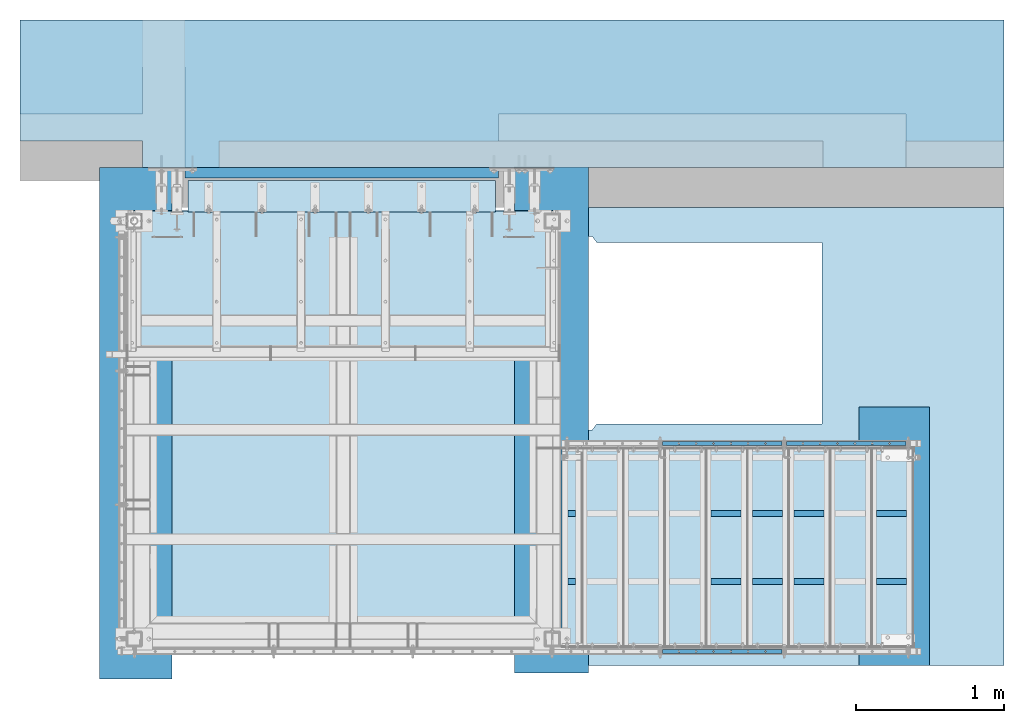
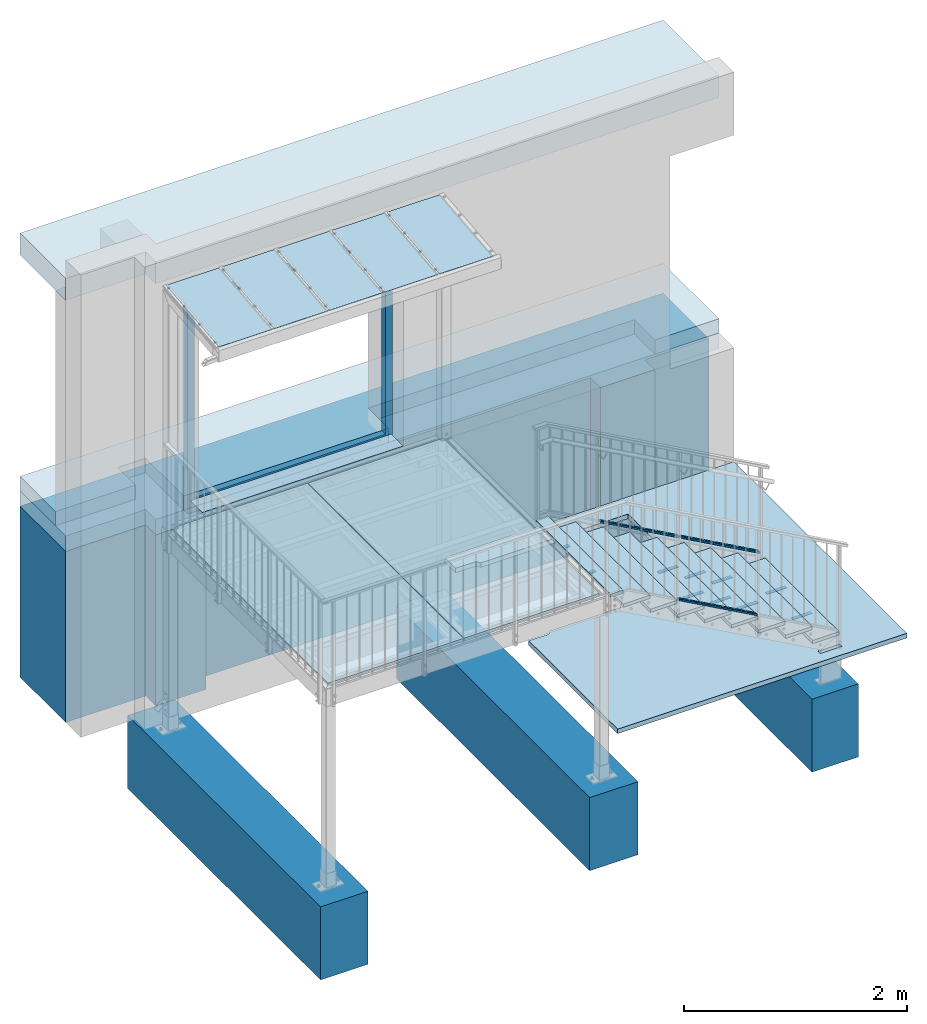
# One storey, part 22 of 116: 17 plates, 10 beams, 9 slabs, 3 members, 30 openings.
"""IFC2X3 building model written with IfcOpenShell, lengths in millimetres."""

from ifc_helpers import new_model, entity, si_unit, converted_unit, frame, frame_2d, origin, origin_with_axes, origin_2d, place, context, project, spatial, polyline, circle_curve, rectangle, hollow_rectangle, outline, extrude, clip, halfspace, material, layer, layer_set, element, save


model = new_model("IFC2X3")

# Units and contexts
model_context = context("Model", 3, precision=1e-09, world=origin_with_axes())
ifc_project = project(units=[si_unit("LENGTHUNIT", "METRE", prefix="MILLI"), si_unit("AREAUNIT", "SQUARE_METRE"), si_unit("VOLUMEUNIT", "CUBIC_METRE"), converted_unit("PLANEANGLEUNIT", "DEGREE", entity("IfcPlaneAngleMeasure", 0.01745329), si_unit("PLANEANGLEUNIT", "RADIAN"), dimensions=[0, 0, 0, 0, 0, 0, 0])], contexts=[model_context])

# Site, building, storey
site_placement = place(None, origin_with_axes())
site = spatial("IfcSite", under=ifc_project, at=site_placement, Name="Site", CompositionType="ELEMENT")
building_placement = place(site_placement, origin_with_axes())
building = spatial("IfcBuilding", under=site, at=building_placement, Name="Struktur 1", CompositionType="ELEMENT")
storey_placement = place(building_placement, origin_with_axes())
storey = spatial("IfcBuildingStorey", under=building, at=storey_placement, Name="Default Storey", CompositionType="ELEMENT", Elevation=0.0)

# Member, openings
ifc_material_1 = material(Name="S235JR")
member_1_placement = place(None, frame((59740.076890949, 9047.359883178, -731.01111299), z_axis=(0.874893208, 0.0, -0.484315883), x_axis=(0.484315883, 0.0, 0.874893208)))
member_1 = element("IfcMember", 1, at=member_1_placement, inside=storey, material=ifc_material_1, Name="-", ObjectType="-", context=model_context, shape_type="Clipping", body=[
    clip(clip(extrude(hollow_rectangle(XDim=20.0, YDim=30.0, WallThickness=2.0, InnerFilletRadius=2.0, OuterFilletRadius=4.0, at=origin_2d()), origin(), (0.0, 0.0, -1.0), 967.0386111), halfspace(frame((630.825044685, 9047.359883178, -369.813529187), z_axis=(-0.484315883, 0.0, -0.874893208), x_axis=(0.0, 1.0, 0.0)), True)), halfspace(frame((238.530148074, 9047.359883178, -1078.475277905), z_axis=(0.484315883, 0.0, 0.874893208), x_axis=(0.0, -1.0, 0.0)), True)),
])
opening_1_placement = place(member_1_placement, frame((148.612357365, 0.0, -908.254290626), z_axis=(0.874893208, 0.0, -0.484315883), x_axis=(0.0, 1.0, 0.0)))
element("IfcOpeningElement", 2, at=opening_1_placement, cuts=member_1, ObjectType="Opening", context=model_context, shape_type="SweptSolid", body=[
    extrude(outline(circle_curve(frame_2d((0.0, 6.051), x_axis=(1.0, 0.0)), 6.051)), origin(), (0.0, 0.0, -1.0), 169.888767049),
])
opening_2_placement = place(member_1_placement, frame((262.35740189, 0.0, -702.779371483), z_axis=(0.874893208, 0.0, -0.484315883), x_axis=(0.0, 1.0, 0.0)))
element("IfcOpeningElement", 3, at=opening_2_placement, cuts=member_1, ObjectType="Opening", context=model_context, shape_type="SweptSolid", body=[
    extrude(outline(circle_curve(frame_2d((0.0, 6.051), x_axis=(1.0, 0.0)), 6.051)), origin(), (0.0, 0.0, -1.0), 299.898971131),
])
opening_3_placement = place(member_1_placement, frame((205.484879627, 0.0, -805.516831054), z_axis=(0.874893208, 0.0, -0.484315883), x_axis=(0.0, 1.0, 0.0)))
element("IfcOpeningElement", 4, at=opening_3_placement, cuts=member_1, ObjectType="Opening", context=model_context, shape_type="SweptSolid", body=[
    extrude(outline(circle_curve(frame_2d((0.0, 6.051), x_axis=(1.0, 0.0)), 6.051)), origin(), (0.0, 0.0, -1.0), 234.89386909),
])
opening_4_placement = place(member_1_placement, frame((376.102446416, 0.0, -497.30445234), z_axis=(0.874893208, 0.0, -0.484315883), x_axis=(0.0, 1.0, 0.0)))
element("IfcOpeningElement", 5, at=opening_4_placement, cuts=member_1, ObjectType="Opening", context=model_context, shape_type="SweptSolid", body=[
    extrude(outline(circle_curve(frame_2d((0.0, 6.051), x_axis=(1.0, 0.0)), 6.051)), origin(), (0.0, 0.0, -1.0), 429.909175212),
])
opening_5_placement = place(member_1_placement, frame((319.229924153, 0.0, -600.041911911), z_axis=(0.874893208, 0.0, -0.484315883), x_axis=(0.0, 1.0, 0.0)))
element("IfcOpeningElement", 6, at=opening_5_placement, cuts=member_1, ObjectType="Opening", context=model_context, shape_type="SweptSolid", body=[
    extrude(outline(circle_curve(frame_2d((0.0, 6.051), x_axis=(1.0, 0.0)), 6.051)), origin(), (0.0, 0.0, -1.0), 364.904073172),
])
opening_6_placement = place(member_1_placement, frame((432.974968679, 0.0, -394.566992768), z_axis=(0.874893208, 0.0, -0.484315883), x_axis=(0.0, 1.0, 0.0)))
element("IfcOpeningElement", 7, at=opening_6_placement, cuts=member_1, ObjectType="Opening", context=model_context, shape_type="SweptSolid", body=[
    extrude(outline(circle_curve(frame_2d((0.0, 6.051), x_axis=(1.0, 0.0)), 6.051)), origin(), (0.0, 0.0, -1.0), 494.914277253),
])

member_2_placement = place(None, frame((59740.076890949, 10455.357883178, -731.01111299), z_axis=(-0.874893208, 0.0, 0.484315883), x_axis=(0.484315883, 0.0, 0.874893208)))
member_2 = element("IfcMember", 8, at=member_2_placement, inside=storey, material=ifc_material_1, Name="-", ObjectType="-", context=model_context, shape_type="Clipping", body=[
    clip(clip(extrude(hollow_rectangle(XDim=20.0, YDim=30.0, WallThickness=2.0, InnerFilletRadius=2.0, OuterFilletRadius=4.0, at=origin_2d()), origin(), (0.0, 0.0, 1.0), 967.0386111), halfspace(frame((630.825044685, -10455.357883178, 369.813529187), z_axis=(-0.484315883, 0.0, 0.874893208), x_axis=(0.0, -1.0, 0.0)), True)), halfspace(frame((238.530148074, -10455.357883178, 1078.475277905), z_axis=(0.484315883, 0.0, -0.874893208), x_axis=(0.0, 1.0, 0.0)), True)),
])
opening_7_placement = place(member_2_placement, frame((148.612357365, 0.0, 908.254290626), z_axis=(0.874893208, 0.0, 0.484315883), x_axis=(0.0, 1.0, 0.0)))
element("IfcOpeningElement", 9, at=opening_7_placement, cuts=member_2, ObjectType="Opening", context=model_context, shape_type="SweptSolid", body=[
    extrude(outline(circle_curve(frame_2d((0.0, -6.051), x_axis=(1.0, 0.0)), 6.051)), origin(), (0.0, 0.0, -1.0), 169.888767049),
])
opening_8_placement = place(member_2_placement, frame((205.484879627, 0.0, 805.516831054), z_axis=(0.874893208, 0.0, 0.484315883), x_axis=(0.0, 1.0, 0.0)))
element("IfcOpeningElement", 10, at=opening_8_placement, cuts=member_2, ObjectType="Opening", context=model_context, shape_type="SweptSolid", body=[
    extrude(outline(circle_curve(frame_2d((0.0, -6.051), x_axis=(1.0, 0.0)), 6.051)), origin(), (0.0, 0.0, -1.0), 234.89386909),
])
opening_9_placement = place(member_2_placement, frame((262.35740189, 0.0, 702.779371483), z_axis=(0.874893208, 0.0, 0.484315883), x_axis=(0.0, 1.0, 0.0)))
element("IfcOpeningElement", 11, at=opening_9_placement, cuts=member_2, ObjectType="Opening", context=model_context, shape_type="SweptSolid", body=[
    extrude(outline(circle_curve(frame_2d((0.0, -6.051), x_axis=(1.0, 0.0)), 6.051)), origin(), (0.0, 0.0, -1.0), 299.898971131),
])
opening_10_placement = place(member_2_placement, frame((319.229924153, 0.0, 600.041911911), z_axis=(0.874893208, 0.0, 0.484315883), x_axis=(0.0, 1.0, 0.0)))
element("IfcOpeningElement", 12, at=opening_10_placement, cuts=member_2, ObjectType="Opening", context=model_context, shape_type="SweptSolid", body=[
    extrude(outline(circle_curve(frame_2d((0.0, -6.051), x_axis=(1.0, 0.0)), 6.051)), origin(), (0.0, 0.0, -1.0), 364.904073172),
])
opening_11_placement = place(member_2_placement, frame((376.102446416, 0.0, 497.30445234), z_axis=(0.874893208, 0.0, 0.484315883), x_axis=(0.0, 1.0, 0.0)))
element("IfcOpeningElement", 13, at=opening_11_placement, cuts=member_2, ObjectType="Opening", context=model_context, shape_type="SweptSolid", body=[
    extrude(outline(circle_curve(frame_2d((0.0, -6.051), x_axis=(1.0, 0.0)), 6.051)), origin(), (0.0, 0.0, -1.0), 429.909175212),
])
opening_12_placement = place(member_2_placement, frame((432.974968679, 0.0, 394.566992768), z_axis=(0.874893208, 0.0, 0.484315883), x_axis=(0.0, 1.0, 0.0)))
element("IfcOpeningElement", 14, at=opening_12_placement, cuts=member_2, ObjectType="Opening", context=model_context, shape_type="SweptSolid", body=[
    extrude(outline(circle_curve(frame_2d((0.0, -6.051), x_axis=(1.0, 0.0)), 6.051)), origin(), (0.0, 0.0, -1.0), 494.914277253),
])

member_3_placement = place(None, frame((60580.076890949, 10455.357883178, -1196.01111299), z_axis=(-0.874893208, 0.0, 0.484315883), x_axis=(0.484315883, 0.0, 0.874893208)))
member_3 = element("IfcMember", 15, at=member_3_placement, inside=storey, material=ifc_material_1, Name="-", ObjectType="-", context=model_context, shape_type="Clipping", body=[
    clip(clip(extrude(hollow_rectangle(XDim=20.0, YDim=30.0, WallThickness=2.0, InnerFilletRadius=2.0, OuterFilletRadius=4.0, at=origin_2d()), origin(), (0.0, 0.0, 1.0), 967.0386111), halfspace(frame((1037.650386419, -10455.357883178, 595.02041479), z_axis=(-0.484315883, 0.0, 0.874893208), x_axis=(0.0, -1.0, 0.0)), True)), halfspace(frame((645.355489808, -10455.357883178, 1303.682163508), z_axis=(0.484315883, 0.0, -0.874893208), x_axis=(0.0, 1.0, 0.0)), True)),
])
opening_13_placement = place(member_3_placement, frame((205.484879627, 0.0, 805.516831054), z_axis=(0.874893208, 0.0, 0.484315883), x_axis=(0.0, 1.0, 0.0)))
element("IfcOpeningElement", 16, at=opening_13_placement, cuts=member_3, ObjectType="Opening", context=model_context, shape_type="SweptSolid", body=[
    extrude(outline(circle_curve(frame_2d((0.0, -6.051), x_axis=(1.0, 0.0)), 6.051)), origin(), (0.0, 0.0, -1.0), 234.89386909),
])
opening_14_placement = place(member_3_placement, frame((148.612357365, 0.0, 908.254290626), z_axis=(0.874893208, 0.0, 0.484315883), x_axis=(0.0, 1.0, 0.0)))
element("IfcOpeningElement", 17, at=opening_14_placement, cuts=member_3, ObjectType="Opening", context=model_context, shape_type="SweptSolid", body=[
    extrude(outline(circle_curve(frame_2d((0.0, -6.051), x_axis=(1.0, 0.0)), 6.051)), origin(), (0.0, 0.0, -1.0), 169.888767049),
])
opening_15_placement = place(member_3_placement, frame((319.229924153, 0.0, 600.041911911), z_axis=(0.874893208, 0.0, 0.484315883), x_axis=(0.0, 1.0, 0.0)))
element("IfcOpeningElement", 18, at=opening_15_placement, cuts=member_3, ObjectType="Opening", context=model_context, shape_type="SweptSolid", body=[
    extrude(outline(circle_curve(frame_2d((0.0, -6.051), x_axis=(1.0, 0.0)), 6.051)), origin(), (0.0, 0.0, -1.0), 364.904073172),
])
opening_16_placement = place(member_3_placement, frame((262.35740189, 0.0, 702.779371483), z_axis=(0.874893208, 0.0, 0.484315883), x_axis=(0.0, 1.0, 0.0)))
element("IfcOpeningElement", 19, at=opening_16_placement, cuts=member_3, ObjectType="Opening", context=model_context, shape_type="SweptSolid", body=[
    extrude(outline(circle_curve(frame_2d((0.0, -6.051), x_axis=(1.0, 0.0)), 6.051)), origin(), (0.0, 0.0, -1.0), 299.898971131),
])
opening_17_placement = place(member_3_placement, frame((376.102446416, 0.0, 497.30445234), z_axis=(0.874893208, 0.0, 0.484315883), x_axis=(0.0, 1.0, 0.0)))
element("IfcOpeningElement", 20, at=opening_17_placement, cuts=member_3, ObjectType="Opening", context=model_context, shape_type="SweptSolid", body=[
    extrude(outline(circle_curve(frame_2d((0.0, -6.051), x_axis=(1.0, 0.0)), 6.051)), origin(), (0.0, 0.0, -1.0), 429.909175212),
])
opening_18_placement = place(member_3_placement, frame((432.974968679, 0.0, 394.566992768), z_axis=(0.874893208, 0.0, 0.484315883), x_axis=(0.0, 1.0, 0.0)))
element("IfcOpeningElement", 21, at=opening_18_placement, cuts=member_3, ObjectType="Opening", context=model_context, shape_type="SweptSolid", body=[
    extrude(outline(circle_curve(frame_2d((0.0, -6.051), x_axis=(1.0, 0.0)), 6.051)), origin(), (0.0, 0.0, -1.0), 494.914277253),
])

# Beams
for number, where, z_axis, x_axis in (
    (22, (58326.049134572, 9981.358883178, -45.5), (1.0, 0.0, 0.0), (0.0, 0.0, 1.0)),
    (23, (58326.049134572, 9521.358883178, -45.5), (1.0, 0.0, 0.0), (0.0, 0.0, 1.0)),
):
    element("IfcBeam", number, at=place(None, frame(where, z_axis=z_axis, x_axis=x_axis)), inside=storey, material=ifc_material_1, Name="-", ObjectType="-", context=model_context, shape_type="SweptSolid", body=[
        extrude(rectangle(XDim=5.0, YDim=40.0, at=origin_2d()), origin(), (0.0, 0.0, -1.0), 54.0),
    ])
for number, where, z_axis, x_axis in (
    (24, (60566.049134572, 9521.358883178, -1285.5), (1.0, 0.0, 0.0), (0.0, 0.0, 1.0)),
    (25, (60566.049134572, 9981.358883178, -1285.5), (1.0, 0.0, 0.0), (0.0, 0.0, 1.0)),
    (26, (60006.049134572, 9521.358883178, -975.5), (1.0, 0.0, 0.0), (0.0, 0.0, 1.0)),
    (27, (60006.049134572, 9981.358883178, -975.5), (1.0, 0.0, 0.0), (0.0, 0.0, 1.0)),
    (28, (59726.049134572, 9521.358883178, -820.5), (1.0, 0.0, 0.0), (0.0, 0.0, 1.0)),
    (29, (59726.049134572, 9981.358883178, -820.5), (1.0, 0.0, 0.0), (0.0, 0.0, 1.0)),
    (30, (59446.049134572, 9521.358883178, -665.5), (1.0, 0.0, 0.0), (0.0, 0.0, 1.0)),
    (31, (59446.049134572, 9981.358883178, -665.5), (1.0, 0.0, 0.0), (0.0, 0.0, 1.0)),
):
    element("IfcBeam", number, at=place(None, frame(where, z_axis=z_axis, x_axis=x_axis)), inside=storey, material=ifc_material_1, Name="-", ObjectType="-", context=model_context, shape_type="SweptSolid", body=[
        extrude(rectangle(XDim=5.0, YDim=40.0, at=origin_2d()), origin(), (0.0, 0.0, -1.0), 204.0),
    ])

# Plates
ifc_material_2 = material(Name="Glas")
ifc_layer_1 = layer(ifc_material_2, 8.76)
ifc_layer_set_1 = layer_set([ifc_layer_1], Name="Glas")
for number, where, z_axis, x_axis in (
    (32, (55332.549134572, 12020.614636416, 2606.944437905), (0.0, 0.104528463, -0.994521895), (1.0, 0.0, 0.0)),
    (33, (55903.549134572, 12020.614636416, 2606.944437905), (0.0, 0.104528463, -0.994521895), (1.0, 0.0, 0.0)),
    (34, (56474.549134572, 12020.614636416, 2606.944437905), (0.0, 0.104528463, -0.994521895), (1.0, 0.0, 0.0)),
    (35, (57045.549134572, 12020.614636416, 2606.944437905), (0.0, 0.104528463, -0.994521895), (1.0, 0.0, 0.0)),
    (36, (57616.549134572, 12020.614636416, 2606.944437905), (0.0, 0.104528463, -0.994521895), (1.0, 0.0, 0.0)),
):
    element("IfcPlate", number, at=place(None, frame(where, z_axis=z_axis, x_axis=x_axis)), inside=storey, material=ifc_layer_set_1, Name="-", ObjectType="-", context=model_context, shape_type="SweptSolid", body=[
        extrude(outline(polyline([(0.0, -10.0), (555.0, -10.0), (555.0, 944.99558045), (0.0, 944.99558045), (0.0, -10.0)])), origin_with_axes(), (0.0, 0.0, 1.0), 8.76),
    ])
ifc_material_3 = material(Name="Mineralit")
ifc_layer_2 = layer(ifc_material_3, 35.0)
ifc_layer_set_2 = layer_set([ifc_layer_2], Name="Mineralit")
plate_1_placement = place(None, frame((60184.549134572, 9751.358883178, -1125.0), z_axis=(0.0, 0.0, 1.0), x_axis=(0.0, -1.0, 0.0)))
element("IfcPlate", 37, at=plate_1_placement, inside=storey, material=ifc_layer_set_2, Name="-", ObjectType="-", context=model_context, shape_type="SweptSolid", body=[
    extrude(outline(polyline([(-665.0, -137.5), (665.0, -137.5), (665.0, 137.5), (-665.0, 137.5), (-665.0, -137.5)])), origin_with_axes(), (0.0, 0.0, 1.0), 35.0),
])
ifc_material_4 = material(Name="Alu")
ifc_layer_3 = layer(ifc_material_4, 5.0)
ifc_layer_set_3 = layer_set([ifc_layer_3], Name="Alu")
plate_2_placement = place(None, frame((56742.050634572, 12129.858383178, -10.0), z_axis=(0.0, 0.0, 1.0), x_axis=(1.0, 0.0, 0.0)))
element("IfcPlate", 38, at=plate_2_placement, inside=storey, material=ifc_layer_set_3, Name="-", ObjectType="-", context=model_context, shape_type="SweptSolid", body=[
    extrude(outline(polyline([(-1040.0005, -107.4995), (1040.0005, -107.4995), (1040.0005, 107.4995), (-1040.0005, 107.4995), (-1040.0005, -107.4995)])), origin_with_axes(), (0.0, 0.0, 1.0), 5.0),
])
plate_3_placement = place(None, frame((58297.049134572, 9751.358883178, -40.0), z_axis=(0.0, 0.0, 1.0), x_axis=(0.0, -1.0, 0.0)))
element("IfcPlate", 39, at=plate_3_placement, inside=storey, material=ifc_layer_set_2, Name="-", ObjectType="-", context=model_context, shape_type="SweptSolid", body=[
    extrude(outline(polyline([(-665.0, -65.0), (665.0, -65.0), (665.0, 65.0), (-665.0, 65.0), (-665.0, -65.0)])), origin_with_axes(), (0.0, 0.0, 1.0), 35.0),
])
for number, where, z_axis, x_axis in (
    (40, (60464.549134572, 9751.358883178, -1280.0), (0.0, 0.0, 1.0), (0.0, -1.0, 0.0)),
    (41, (59904.549134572, 9751.358883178, -970.0), (0.0, 0.0, 1.0), (0.0, -1.0, 0.0)),
    (42, (59624.549134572, 9751.358883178, -815.0), (0.0, 0.0, 1.0), (0.0, -1.0, 0.0)),
    (43, (59344.549134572, 9751.358883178, -660.0), (0.0, 0.0, 1.0), (0.0, -1.0, 0.0)),
    (44, (59064.549134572, 9751.358883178, -505.0), (0.0, 0.0, 1.0), (0.0, -1.0, 0.0)),
):
    element("IfcPlate", number, at=place(None, frame(where, z_axis=z_axis, x_axis=x_axis)), inside=storey, material=ifc_layer_set_2, Name="-", ObjectType="-", context=model_context, shape_type="SweptSolid", body=[
        extrude(outline(polyline([(-665.0, -137.5), (665.0, -137.5), (665.0, 137.5), (-665.0, 137.5), (-665.0, -137.5)])), origin_with_axes(), (0.0, 0.0, 1.0), 35.0),
    ])
for number, where, z_axis, x_axis in (
    (45, (57457.049634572, 10553.358883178, -45.0), (0.0, 0.0, 1.0), (0.0, -1.0, 0.0)),
    (46, (56047.048634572, 10553.358883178, -45.0), (0.0, 0.0, 1.0), (0.0, -1.0, 0.0)),
):
    element("IfcPlate", number, at=place(None, frame(where, z_axis=z_axis, x_axis=x_axis)), inside=storey, material=ifc_layer_set_2, Name="-", ObjectType="-", context=model_context, shape_type="SweptSolid", body=[
        extrude(outline(polyline([(-1401.0, -702.0005), (1401.0, -702.0005), (1401.0, 702.0005), (-1401.0, 702.0005), (-1401.0, -702.0005)])), origin_with_axes(), (0.0, 0.0, 1.0), 35.0),
    ])
for number, where, z_axis, x_axis in (
    (47, (58784.549134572, 9751.358883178, -350.0), (0.0, 0.0, 1.0), (0.0, -1.0, 0.0)),
    (48, (58504.549134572, 9751.358883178, -195.0), (0.0, 0.0, 1.0), (0.0, -1.0, 0.0)),
):
    element("IfcPlate", number, at=place(None, frame(where, z_axis=z_axis, x_axis=x_axis)), inside=storey, material=ifc_layer_set_2, Name="-", ObjectType="-", context=model_context, shape_type="SweptSolid", body=[
        extrude(outline(polyline([(-665.0, -137.5), (665.0, -137.5), (665.0, 137.5), (-665.0, 137.5), (-665.0, -137.5)])), origin_with_axes(), (0.0, 0.0, 1.0), 35.0),
    ])

# Slab, opening
ifc_material_5 = material(Name="C25/30")
ifc_layer_4 = layer(ifc_material_5, 70.0)
ifc_layer_set_4 = layer_set([ifc_layer_4], Name="C25/30")
slab_1_placement = place(None, frame((56742.050134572, 12322.357883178, 1010.0), z_axis=(0.0, -1.0, 0.0), x_axis=(1.0, 0.0, 0.0)))
slab_1 = element("IfcSlab", 49, at=slab_1_placement, inside=storey, material=ifc_layer_set_4, Name="Gokoba_Estrich", ObjectType="Gokoba_Estrich", context=model_context, shape_type="SweptSolid", body=[
    extrude(outline(polyline([(-1060.0, -1165.002), (1060.0, -1165.002), (1060.0, 1165.002), (-1060.0, 1165.002), (-1060.0, -1165.002)])), origin_with_axes(), (0.0, 0.0, 1.0), 70.0),
])
opening_19_placement = place(slab_1_placement, frame((0.0, 0.0, -0.1), z_axis=(0.0, 0.0, 1.0), x_axis=(1.0, 0.0, 0.0)))
element("IfcOpeningElement", 50, at=opening_19_placement, cuts=slab_1, ObjectType="Opening", context=model_context, shape_type="SweptSolid", body=[
    extrude(outline(polyline([(-990.001, -1010.001), (990.002, -1010.001), (990.002, 1095.003), (-990.001, 1095.003), (-990.001, -1010.001)])), origin(), (0.0, 0.0, 1.0), 70.2),
])

# Slabs
ifc_layer_5 = layer(ifc_material_5, 800.0)
ifc_layer_set_5 = layer_set([ifc_layer_5], Name="C25/30")
slab_2_placement = place(None, frame((55347.049134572, 10592.359883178, -2997.0), z_axis=(0.0, 0.0, 1.0), x_axis=(1.0, 0.0, 0.0)))
element("IfcSlab", 51, at=slab_2_placement, inside=storey, material=ifc_layer_set_5, Name="-", ObjectType="-", context=model_context, shape_type="SweptSolid", body=[
    extrude(outline(polyline([(-245.0, -1730.0), (245.0, -1730.0), (245.0, 1730.0), (-245.0, 1730.0), (-245.0, -1730.0)])), origin_with_axes(), (0.0, 0.0, 1.0), 800.0),
])
slab_3_placement = place(None, frame((58162.049134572, 10637.359883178, -2809.0), z_axis=(0.0, 0.0, 1.0), x_axis=(1.0, 0.0, 0.0)))
element("IfcSlab", 52, at=slab_3_placement, inside=storey, material=ifc_layer_set_5, Name="-", ObjectType="-", context=model_context, shape_type="SweptSolid", body=[
    extrude(outline(polyline([(-250.0, -1735.0), (250.0, -1735.0), (250.0, 1735.0), (-250.0, 1735.0), (-250.0, -1735.0)])), origin_with_axes(), (0.0, 0.0, 1.0), 800.0),
])
slab_4_placement = place(None, frame((60482.049134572, 9827.359883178, -2577.0), z_axis=(0.0, 0.0, 1.0), x_axis=(1.0, 0.0, 0.0)))
element("IfcSlab", 53, at=slab_4_placement, inside=storey, material=ifc_layer_set_5, Name="-", ObjectType="-", context=model_context, shape_type="SweptSolid", body=[
    extrude(outline(polyline([(-240.0, -875.0), (240.0, -875.0), (240.0, 875.0), (-240.0, 875.0), (-240.0, -875.0)])), origin_with_axes(), (0.0, 0.0, 1.0), 800.0),
])

# Slab, opening
ifc_layer_6 = layer(ifc_material_5, 170.0)
ifc_layer_set_6 = layer_set([ifc_layer_6], Name="C25/30")
slab_5_placement = place(None, frame((57894.547502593, 12822.359883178, -325.0), z_axis=(0.0, 0.0, 1.0), x_axis=(1.0, 0.0, 0.0)))
slab_5 = element("IfcSlab", 54, at=slab_5_placement, inside=storey, material=ifc_layer_set_6, Name="-", ObjectType="-", context=model_context, shape_type="SweptSolid", body=[
    extrude(outline(polyline([(-3330.527049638, -500.0), (3330.527049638, -500.0), (3330.527049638, 500.0), (-3330.527049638, 500.0), (-3330.527049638, -500.0)])), origin_with_axes(), (0.0, 0.0, 1.0), 170.0),
])
opening_20_placement = place(slab_5_placement, frame((0.0, 0.0, -0.1), z_axis=(0.0, 0.0, 1.0), x_axis=(1.0, 0.0, 0.0)))
element("IfcOpeningElement", 55, at=opening_20_placement, cuts=slab_5, ObjectType="Opening", context=model_context, shape_type="SweptSolid", body=[
    extrude(outline(polyline([(-3817.030592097, -1021.212631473), (-2502.497368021, -1021.212631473), (-2502.497368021, -319.998), (-3817.030592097, -319.998), (-3817.030592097, -1021.212631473)])), origin(), (0.0, 0.0, 1.0), 170.2),
])

ifc_layer_7 = layer(ifc_material_5, 240.0)
ifc_layer_set_7 = layer_set([ifc_layer_7], Name="C25/30")
slab_6_placement = place(None, frame((57894.547502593, 12822.359883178, 2425.0), z_axis=(0.0, 0.0, 1.0), x_axis=(1.0, 0.0, 0.0)))
slab_6 = element("IfcSlab", 56, at=slab_6_placement, inside=storey, material=ifc_layer_set_7, Name="-", ObjectType="-", context=model_context, shape_type="SweptSolid", body=[
    extrude(outline(polyline([(-3330.527049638, -500.0), (3330.527049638, -500.0), (3330.527049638, 500.0), (-3330.527049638, 500.0), (-3330.527049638, -500.0)])), origin_with_axes(), (0.0, 0.0, 1.0), 240.0),
])
opening_21_placement = place(slab_6_placement, frame((0.0, 0.0, -0.1), z_axis=(0.0, 0.0, 1.0), x_axis=(1.0, 0.0, 0.0)))
element("IfcOpeningElement", 57, at=opening_21_placement, cuts=slab_6, ObjectType="Opening", context=model_context, shape_type="SweptSolid", body=[
    extrude(outline(polyline([(-3742.396485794, -786.077669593), (-2502.497368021, -786.077669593), (-2502.497368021, -319.997), (-3742.396485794, -319.997), (-3742.396485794, -786.077669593)])), origin(), (0.0, 0.0, 1.0), 240.2),
])

# Slab, openings
ifc_material_6 = material(Name="Estrich")
ifc_layer_8 = layer(ifc_material_6, 155.0)
ifc_layer_set_8 = layer_set([ifc_layer_8], Name="Estrich")
slab_7_placement = place(None, frame((57894.547502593, 12822.359883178, -155.0), z_axis=(0.0, 0.0, 1.0), x_axis=(1.0, 0.0, 0.0)))
slab_7 = element("IfcSlab", 58, at=slab_7_placement, inside=storey, material=ifc_layer_set_8, Name="Gokoba_Estrich", ObjectType="Gokoba_Estrich", context=model_context, shape_type="SweptSolid", body=[
    extrude(outline(polyline([(-3330.527049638, -500.0), (3330.527049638, -500.0), (3330.527049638, 500.0), (-3330.527049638, 500.0), (-3330.527049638, -500.0)])), origin_with_axes(), (0.0, 0.0, 1.0), 155.0),
])
opening_22_placement = place(slab_7_placement, frame((0.0, 0.0, -0.1), z_axis=(0.0, 0.0, 1.0), x_axis=(1.0, 0.0, 0.0)))
element("IfcOpeningElement", 59, at=opening_22_placement, cuts=slab_7, ObjectType="Opening", context=model_context, shape_type="SweptSolid", body=[
    extrude(outline(polyline([(-3855.173735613, -866.466190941), (-2212.497368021, -866.466190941), (-2212.497368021, -135.0), (-3855.173735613, -135.0), (-3855.173735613, -866.466190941)])), origin(), (0.0, 0.0, 1.0), 155.2),
])
opening_23_placement = place(slab_7_placement, frame((0.0, 0.0, -0.1), z_axis=(0.0, 0.0, 1.0), x_axis=(1.0, 0.0, 0.0)))
element("IfcOpeningElement", 60, at=opening_23_placement, cuts=slab_7, ObjectType="Opening", context=model_context, shape_type="SweptSolid", body=[
    extrude(outline(polyline([(-92.499368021, -974.433586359), (2665.499631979, -974.433586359), (2665.499631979, -135.0), (-92.499368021, -135.0), (-92.499368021, -974.433586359)])), origin(), (0.0, 0.0, 1.0), 155.2),
])
opening_24_placement = place(slab_7_placement, frame((0.0, 0.0, -0.1), z_axis=(0.0, 0.0, 1.0), x_axis=(1.0, 0.0, 0.0)))
element("IfcOpeningElement", 61, at=opening_24_placement, cuts=slab_7, ObjectType="Opening", context=model_context, shape_type="SweptSolid", body=[
    extrude(outline(polyline([(-2502.499368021, -273.521188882), (-2212.496368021, -273.521188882), (-2212.496368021, 182.4995), (-2502.499368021, 182.4995), (-2502.499368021, -273.521188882)])), origin(), (0.0, 0.0, 1.0), 155.2),
])

ifc_layer_9 = layer(ifc_material_5, 1872.0)
ifc_layer_set_9 = layer_set([ifc_layer_9], Name="C25/30")
slab_8_placement = place(None, frame((57894.547502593, 12822.359883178, -2197.0), z_axis=(0.0, 0.0, 1.0), x_axis=(1.0, 0.0, 0.0)))
slab_8 = element("IfcSlab", 62, at=slab_8_placement, inside=storey, material=ifc_layer_set_9, Name="-", ObjectType="-", context=model_context, shape_type="SweptSolid", body=[
    extrude(outline(polyline([(-3330.527049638, -500.0), (3330.527049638, -500.0), (3330.527049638, 500.0), (-3330.527049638, 500.0), (-3330.527049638, -500.0)])), origin_with_axes(), (0.0, 0.0, 1.0), 1872.0),
])
opening_25_placement = place(slab_8_placement, frame((0.0, 0.0, -0.1), z_axis=(0.0, 0.0, 1.0), x_axis=(1.0, 0.0, 0.0)))
element("IfcOpeningElement", 63, at=opening_25_placement, cuts=slab_8, ObjectType="Opening", context=model_context, shape_type="SweptSolid", body=[
    extrude(outline(polyline([(-1982.500368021, -845.973273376), (2105.501631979, -845.973273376), (2105.501631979, -319.999), (-1982.500368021, -319.999), (-1982.500368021, -845.973273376)])), origin(), (0.0, 0.0, 1.0), 1872.2),
])
opening_26_placement = place(slab_8_placement, frame((0.0, 0.0, -0.1), z_axis=(0.0, 0.0, 1.0), x_axis=(1.0, 0.0, 0.0)))
element("IfcOpeningElement", 64, at=opening_26_placement, cuts=slab_8, ObjectType="Opening", context=model_context, shape_type="SweptSolid", body=[
    extrude(outline(polyline([(2665.499631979, -916.963530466), (3575.259509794, -916.963530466), (3575.259509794, -319.999), (2665.499631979, -319.999), (2665.499631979, -916.963530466)])), origin(), (0.0, 0.0, 1.0), 1872.2),
])
opening_27_placement = place(slab_8_placement, frame((0.0, 0.0, -0.1), z_axis=(0.0, 0.0, 1.0), x_axis=(1.0, 0.0, 0.0)))
element("IfcOpeningElement", 65, at=opening_27_placement, cuts=slab_8, ObjectType="Opening", context=model_context, shape_type="SweptSolid", body=[
    extrude(outline(polyline([(-3694.586307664, -1026.107144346), (-2502.498368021, -1026.107144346), (-2502.498368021, -319.999), (-3694.586307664, -319.999), (-3694.586307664, -1026.107144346)])), origin(), (0.0, 0.0, 1.0), 1872.2),
])

ifc_layer_10 = layer(ifc_material_5, 50.0)
ifc_layer_set_10 = layer_set([ifc_layer_10], Name="C25/30")
slab_9_placement = place(None, frame((59727.561843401, 10502.359883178, -1450.0), z_axis=(0.0, 0.0, 1.0), x_axis=(1.0, 0.0, 0.0)))
slab_9 = element("IfcSlab", 66, at=slab_9_placement, inside=storey, material=ifc_layer_set_10, Name="Gokoba_Estrich", ObjectType="Gokoba_Estrich", context=model_context, shape_type="SweptSolid", body=[
    extrude(outline(polyline([(-1497.51270883, -1550.0), (1497.51270883, -1550.0), (1497.51270883, 1550.0), (-1497.51270883, 1550.0), (-1497.51270883, -1550.0)])), origin_with_axes(), (0.0, 0.0, 1.0), 50.0),
])
opening_28_placement = place(slab_9_placement, frame((0.0, 0.0, -0.1), z_axis=(0.0, 0.0, 1.0), x_axis=(1.0, 0.0, 0.0)))
element("IfcOpeningElement", 67, at=opening_28_placement, cuts=slab_9, ObjectType="Opening", context=model_context, shape_type="SweptSolid", body=[
    extrude(outline(polyline([(667.48629117, -107.002), (894.48829117, -107.002), (894.48829117, -67.001), (667.48629117, -67.001), (667.48629117, -107.002)])), origin(), (0.0, 0.0, 1.0), 50.2),
])
opening_29_placement = place(slab_9_placement, frame((667.48629117, -1395.0, -0.1), z_axis=(0.0, 0.0, -1.0), x_axis=(1.0, 0.0, 0.0)))
element("IfcOpeningElement", 68, at=opening_29_placement, cuts=slab_9, ObjectType="Opening", context=model_context, shape_type="SweptSolid", body=[
    extrude(outline(polyline([(0.0, 0.0), (227.002, 0.0), (227.002, 40.001), (0.0, 40.001), (0.0, 0.0)])), origin(), (0.0, 0.0, -1.0), 50.2),
])
opening_30_placement = place(slab_9_placement, frame((0.0, 0.0, -0.1), z_axis=(0.0, 0.0, 1.0), x_axis=(1.0, 0.0, 0.0)))
element("IfcOpeningElement", 69, at=opening_30_placement, cuts=slab_9, ObjectType="Opening", context=model_context, shape_type="SweptSolid", body=[
    extrude(outline(polyline([(264.48829117, 84.998000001), (264.48829117, 1315.001643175), (-1260.012824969, 1314.500821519), (-1290.01220883, 1354.5), (-1502.51370883, 1354.5), (-1502.51370883, 45.498), (-1290.031085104, 45.498), (-1260.031085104, 84.998000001), (264.48829117, 84.998000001)])), origin(), (0.0, 0.0, 1.0), 50.2),
])

save(model, "model.ifc")
